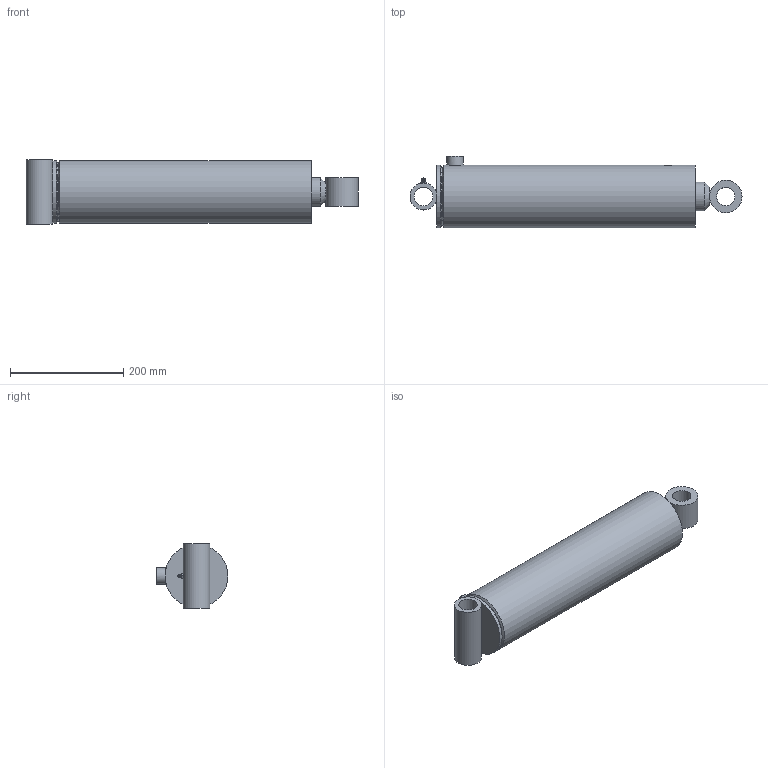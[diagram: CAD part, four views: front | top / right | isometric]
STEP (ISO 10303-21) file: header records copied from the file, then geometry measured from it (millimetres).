
FILE_DESCRIPTION((''),'2;1');
FILE_NAME('\\SRVR-ENG\EngSales\PMC-5612.stp','2011-06-29T07:25:27',('KneiflD'),(''),'Autodesk Inventor 2011','Autodesk Inventor 2011','');
FILE_SCHEMA(('AUTOMOTIVE_DESIGN { 1 0 10303 214 1 1 1 1 }'));
Length unit declared in the file: inch
Products named in the file (20): PMC-5612; 061900035; 051900057; 161900081V; 200014404V; 210600086V; 021100296; 011100866; 210600347V; 071900019; 081900451V; 220000212V; 240000026V; 240061342V; 240000342V; 240020009V; 230001400V; 200018003V; 270010020V; 250001329V
Assembly tree (20 placements, depth 3):
  PMC-5612
    061900035
      051900057
      161900081V
      200014404V
      210600086V
    021100296
      011100866
      210600347V
    071900019
    081900451V
    220000212V
    240000026V
    240061342V
    240000342V
    240020009V
    230001400V
    200018003V  x2
    270010020V
    250001329V
Bounding box: 585.8 x 127 x 114.3 mm (x, y, z)
Volume: 2541566.8 mm3; surface area: 575454.5 mm2
Topology: 18 solids, 18 shells, 218 faces, 438 edges, 263 vertices
Faces by surface type: plane 90, cylinder 57, cone 36, torus 32, bspline 2, sphere 1
Full cylindrical faces by diameter (mm): 1.524 x1, 3.175 x2, 6.074 x1, 8.839 x2, 12.7 x1, 17.463 x1, 17.475 x1, 23.813 x1, 28.575 x1, 29.972 x1, 31.699 x1, 31.826 x1, 32.258 x1, 32.385 x1, 34.315 x1, 47.625 x1, 50.8 x2, 50.876 x2, 51.752 x1, 54.61 x1, 57.15 x1, 58.725 x2, 59.373 x1, 60.325 x1, 60.452 x1, 63.5 x1, 80.95 x1, 91.592 x1, 92.151 x1, 92.71 x1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
Entity records: 5669 total; most frequent: CARTESIAN_POINT 1347, DIRECTION 877, ORIENTED_EDGE 548, AXIS2_PLACEMENT_3D 412, EDGE_LOOP 358, EDGE_CURVE 274, VERTEX_POINT 226, FACE_OUTER_BOUND 201
